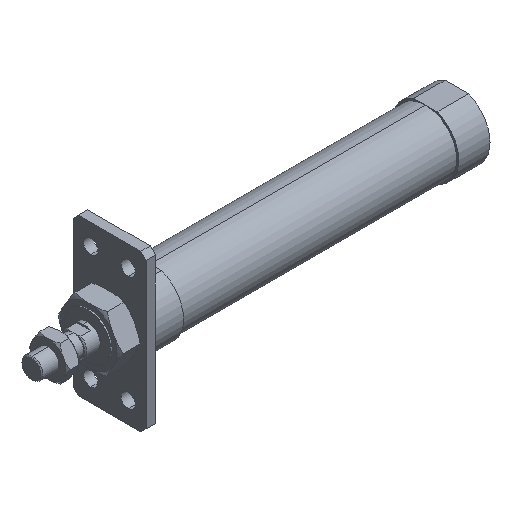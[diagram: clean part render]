
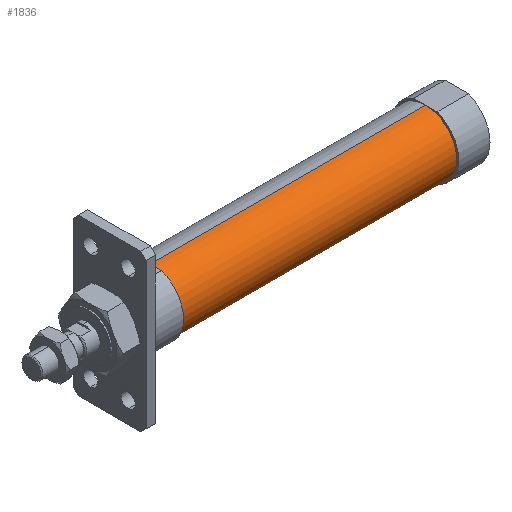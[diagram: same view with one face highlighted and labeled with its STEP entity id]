
A CAD part, isometric view. The second image highlights one B-rep face of the part: STEP entity #1836.
In plain terms, the highlighted cylindrical face has radius 15 mm (diameter 30 mm), a partial arc.
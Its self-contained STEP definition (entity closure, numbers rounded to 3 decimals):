
#50 = CARTESIAN_POINT ( 'NONE',  ( 189., 0., 15. ) ) ;
#140 = AXIS2_PLACEMENT_3D ( 'NONE', #1877, #2397, #1255 ) ;
#185 = AXIS2_PLACEMENT_3D ( 'NONE', #2205, #204, #2812 ) ;
#204 = DIRECTION ( 'NONE',  ( -1., 0., 0. ) ) ;
#374 = DIRECTION ( 'NONE',  ( -1., 0., 0. ) ) ;
#425 = CYLINDRICAL_SURFACE ( 'NONE', #185, 15. ) ;
#500 = CARTESIAN_POINT ( 'NONE',  ( -6.469, 0., 15. ) ) ;
#645 = FACE_OUTER_BOUND ( 'NONE', #3519, .T. ) ;
#652 = CARTESIAN_POINT ( 'NONE',  ( 57., 0., 0. ) ) ;
#852 = VERTEX_POINT ( 'NONE', #50 ) ;
#865 = LINE ( 'NONE', #978, #2033 ) ;
#964 = DIRECTION ( 'NONE',  ( -1., 0., 0. ) ) ;
#978 = CARTESIAN_POINT ( 'NONE',  ( -6.469, 0., -15. ) ) ;
#1255 = DIRECTION ( 'NONE',  ( 0., 0., 1. ) ) ;
#1335 = VERTEX_POINT ( 'NONE', #1615 ) ;
#1615 = CARTESIAN_POINT ( 'NONE',  ( 189., 0., -15. ) ) ;
#1673 = AXIS2_PLACEMENT_3D ( 'NONE', #652, #374, #2932 ) ;
#1836 = ADVANCED_FACE ( 'NONE', ( #645 ), #425, .T. ) ;
#1877 = CARTESIAN_POINT ( 'NONE',  ( 189., 0., 0. ) ) ;
#2033 = VECTOR ( 'NONE', #964, 1000. ) ;
#2192 = ORIENTED_EDGE ( 'NONE', *, *, #3082, .T. ) ;
#2205 = CARTESIAN_POINT ( 'NONE',  ( -6.469, 0., 0. ) ) ;
#2299 = CIRCLE ( 'NONE', #1673, 15. ) ;
#2394 = VECTOR ( 'NONE', #2511, 1000. ) ;
#2397 = DIRECTION ( 'NONE',  ( -1., 0., 0. ) ) ;
#2511 = DIRECTION ( 'NONE',  ( -1., 0., 0. ) ) ;
#2539 = CARTESIAN_POINT ( 'NONE',  ( 57., 0., -15. ) ) ;
#2696 = ORIENTED_EDGE ( 'NONE', *, *, #2910, .F. ) ;
#2812 = DIRECTION ( 'NONE',  ( 0., 0., 1. ) ) ;
#2862 = CARTESIAN_POINT ( 'NONE',  ( 57., 0., 15. ) ) ;
#2910 = EDGE_CURVE ( 'NONE', #3661, #3718, #2299, .T. ) ;
#2932 = DIRECTION ( 'NONE',  ( 0., 0., 1. ) ) ;
#3071 = ORIENTED_EDGE ( 'NONE', *, *, #3456, .T. ) ;
#3082 = EDGE_CURVE ( 'NONE', #1335, #852, #3726, .T. ) ;
#3103 = EDGE_CURVE ( 'NONE', #1335, #3661, #865, .T. ) ;
#3443 = LINE ( 'NONE', #500, #2394 ) ;
#3456 = EDGE_CURVE ( 'NONE', #852, #3718, #3443, .T. ) ;
#3460 = ORIENTED_EDGE ( 'NONE', *, *, #3103, .F. ) ;
#3519 = EDGE_LOOP ( 'NONE', ( #3460, #2192, #3071, #2696 ) ) ;
#3661 = VERTEX_POINT ( 'NONE', #2539 ) ;
#3718 = VERTEX_POINT ( 'NONE', #2862 ) ;
#3726 = CIRCLE ( 'NONE', #140, 15. ) ;
